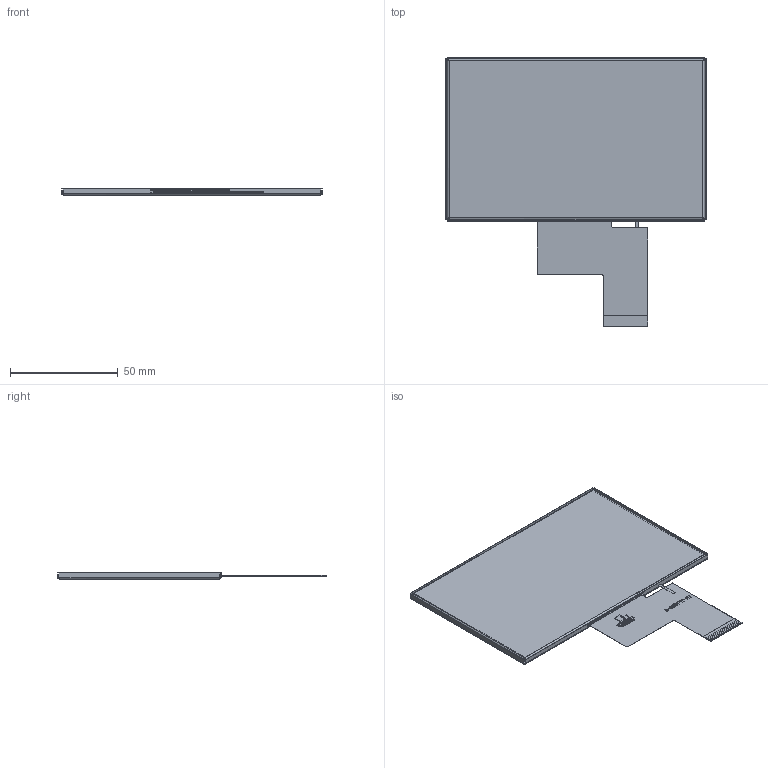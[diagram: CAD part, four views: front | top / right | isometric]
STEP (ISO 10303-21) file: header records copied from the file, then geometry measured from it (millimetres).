
FILE_DESCRIPTION (( 'STEP AP214' ), '1' );
FILE_NAME ('ER-TFT050-6.STEP', '2026-03-10T08:26:32', ( '微软用户' ), ( '微软中国' ), 'SwSTEP 2.0', 'SolidWorks 2023', '' );
FILE_SCHEMA (( 'AUTOMOTIVE_DESIGN' ));
Length unit declared in the file: millimetre
Products named in the file (1): ER-TFT050-6
Bounding box: 120.7 x 124.6 x 2.8 mm (x, y, z)
Volume: 22558.1 mm3; surface area: 27679.8 mm2
Topology: 43 solids, 43 shells, 743 faces, 1980 edges, 1324 vertices
Faces by surface type: plane 448, bspline 276, cylinder 19
Entity records: 40107 total; most frequent: CARTESIAN_POINT 17096, ORIENTED_EDGE 3960, DIRECTION 2370, EDGE_CURVE 1980, LINE 1422, VECTOR 1422, VERTEX_POINT 1324, EDGE_LOOP 784
